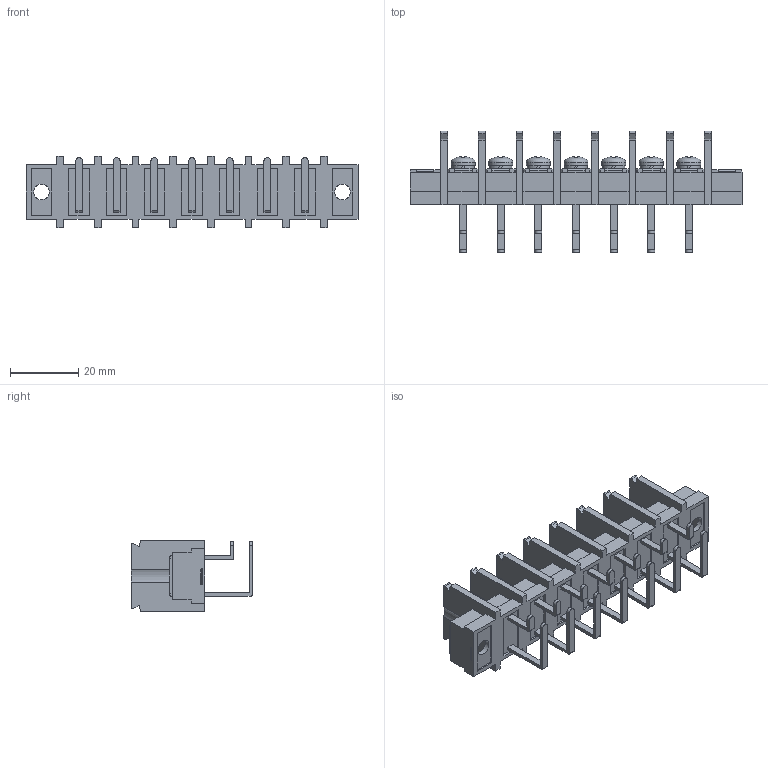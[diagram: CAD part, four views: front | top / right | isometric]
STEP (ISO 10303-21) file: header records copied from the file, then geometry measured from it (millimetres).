
FILE_DESCRIPTION(/* description */ ('Alibre Inc.'),/* implementation_level */ '2;1');
FILE_NAME(/* name */ 'export0',/* time_stamp */ '2015-12-02T13:01:36+09:00',/* author */ (''),/* organization */ (''),/* preprocessor_version */ 'ST-DEVELOPER v14',/* originating_system */ 'Alibre',/* authorisation */ '');
FILE_SCHEMA (('CONFIG_CONTROL_DESIGN'));
Length unit declared in the file: centimetre
Products named in the file (1): ID_1
Bounding box: 97 x 35.5 x 21 mm (x, y, z)
Volume: 16389.6 mm3; surface area: 18633.3 mm2
Topology: 1 solids, 17 shells, 1223 faces, 3356 edges, 2228 vertices
Faces by surface type: plane 960, cylinder 110, bspline 104, cone 35, torus 7, sphere 7
Full cylindrical faces by diameter (mm): 4 x7, 4.55 x2, 4.6 x2, 6.5 x7, 7 x7
Entity records: 37025 total; most frequent: CARTESIAN_POINT 7779, ORIENTED_EDGE 6644, DIRECTION 4601, EDGE_CURVE 3322, VECTOR 2567, LINE 2567, VERTEX_POINT 2226, AXIS2_PLACEMENT_3D 1458
